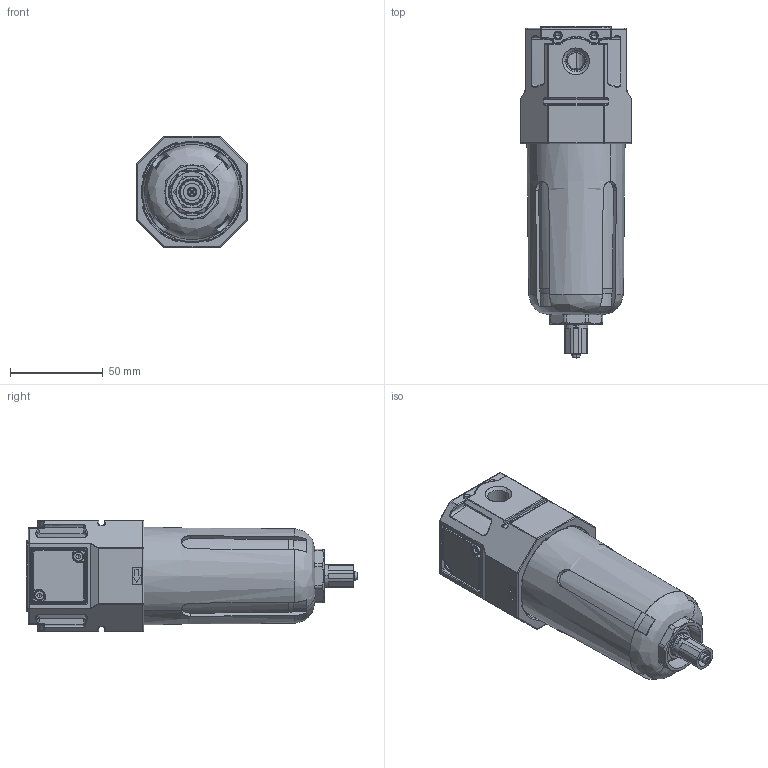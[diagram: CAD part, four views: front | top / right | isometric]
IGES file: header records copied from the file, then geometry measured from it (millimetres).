
Start section: SolidWorks IGES file using analytic representation for surfaces
Bounding box: 60 x 179.1 x 60 mm (x, y, z)
Surface area: 108340.4 mm2 (no closed solid volume)
Topology: 0 solids, 0 shells, 2029 faces, 20060 edges, 19944 vertices
Faces by surface type: revolution 1083, bspline 946
